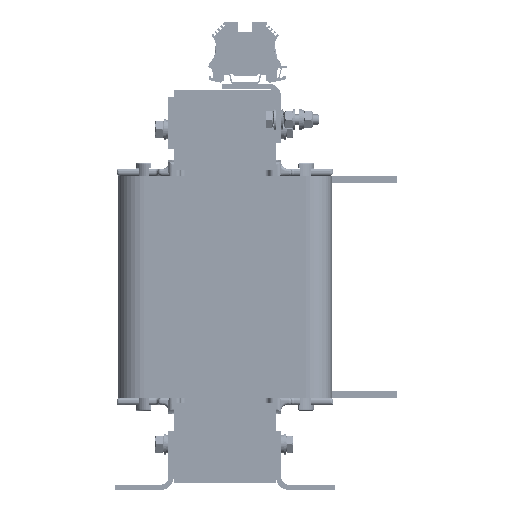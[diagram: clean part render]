
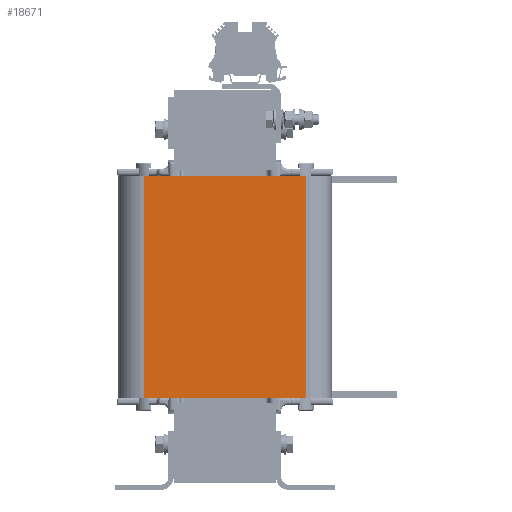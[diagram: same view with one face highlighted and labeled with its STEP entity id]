
A CAD part, left-side view. The second image highlights one B-rep face of the part: STEP entity #18671.
In plain terms, the highlighted planar face has unit normal (-1, 0, 0).
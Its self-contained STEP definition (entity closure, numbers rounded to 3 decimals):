
#15792=CARTESIAN_POINT('',(-191.213,61.55,84.5));
#15793=VERTEX_POINT('',#15792);
#15803=CARTESIAN_POINT('',(-191.213,-61.55,84.5));
#15804=VERTEX_POINT('',#15803);
#15805=CARTESIAN_POINT('',(-191.213,-61.55,84.5));
#15806=DIRECTION('',(0.0,1.0,0.0));
#15807=VECTOR('',#15806,123.1);
#15808=LINE('',#15805,#15807);
#15809=EDGE_CURVE('',#15804,#15793,#15808,.T.);
#16899=CARTESIAN_POINT('',(-191.213,-61.55,-84.5));
#16900=VERTEX_POINT('',#16899);
#16908=CARTESIAN_POINT('',(-191.213,61.55,-84.5));
#16909=VERTEX_POINT('',#16908);
#16910=CARTESIAN_POINT('',(-191.213,61.55,-84.5));
#16911=DIRECTION('',(0.0,-1.0,0.0));
#16912=VECTOR('',#16911,123.1);
#16913=LINE('',#16910,#16912);
#16914=EDGE_CURVE('',#16909,#16900,#16913,.T.);
#18566=CARTESIAN_POINT('',(-191.213,-61.55,-84.5));
#18567=DIRECTION('',(0.0,0.0,1.0));
#18568=VECTOR('',#18567,169.);
#18569=LINE('',#18566,#18568);
#18570=EDGE_CURVE('',#16900,#15804,#18569,.T.);
#18649=CARTESIAN_POINT('',(-191.213,61.55,84.5));
#18650=DIRECTION('',(0.0,0.0,-1.0));
#18651=VECTOR('',#18650,169.);
#18652=LINE('',#18649,#18651);
#18653=EDGE_CURVE('',#15793,#16909,#18652,.T.);
#18660=CARTESIAN_POINT('',(-191.213,61.55,0.0));
#18661=DIRECTION('',(-1.0,0.0,0.0));
#18662=DIRECTION('',(0.0,0.0,-1.0));
#18663=AXIS2_PLACEMENT_3D('',#18660,#18661,#18662);
#18664=PLANE('',#18663);
#18665=ORIENTED_EDGE('',*,*,#16914,.T.);
#18666=ORIENTED_EDGE('',*,*,#18570,.T.);
#18667=ORIENTED_EDGE('',*,*,#15809,.T.);
#18668=ORIENTED_EDGE('',*,*,#18653,.T.);
#18669=EDGE_LOOP('',(#18665,#18666,#18667,#18668));
#18670=FACE_OUTER_BOUND('',#18669,.T.);
#18671=ADVANCED_FACE('',(#18670),#18664,.T.);
